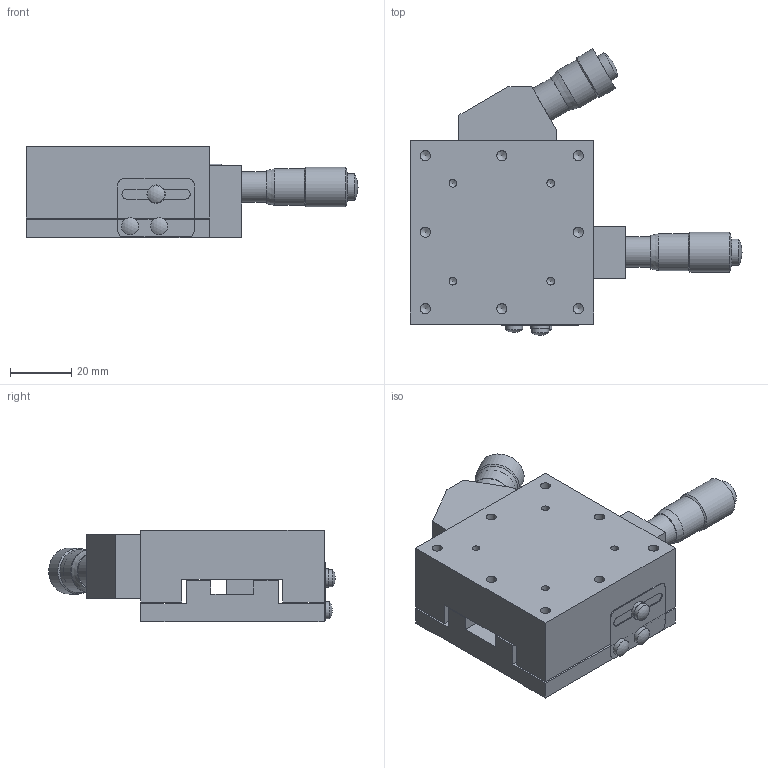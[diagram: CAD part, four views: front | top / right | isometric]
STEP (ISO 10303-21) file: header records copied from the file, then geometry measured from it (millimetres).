
FILE_DESCRIPTION( ( 'STEP AP214' ), '1' );
FILE_NAME( 'C:/Project/3D_B10-60RN-配布-070508.stp', '2007-05-08T10:41:49', ( ' ' ), ( ' ' ), 'XStep 1.0', ' ', ' ' );
FILE_SCHEMA( ( 'automotive_design' ) );
Length unit declared in the file: millimetre
Products named in the file (4): 1; 2; 3; 4
Bounding box: 108.5 x 93.68 x 30 mm (x, y, z)
Volume: 117844.7 mm3; surface area: 35447.7 mm2
Topology: 4 solids, 4 shells, 158 faces, 364 edges, 233 vertices
Faces by surface type: plane 72, cylinder 60, cone 19, sphere 6, bspline 1
Full cylindrical faces by diameter (mm): 2.5 x8, 3 x1, 3.3 x16, 4.5 x4, 5 x3, 5.6 x3, 6 x1, 6.35 x1, 6.5 x2, 8 x4, 8.6 x1, 9 x1, 9.5 x1, 10 x1, 10.5 x1, 12 x2, 13 x1, 13.6 x1, 14 x1, 15 x1
Entity records: 5314 total; most frequent: DIRECTION 704, CARTESIAN_POINT 683, ORIENTED_EDGE 540, AXIS2_PLACEMENT_3D 273, EDGE_CURVE 270, EDGE_LOOP 261, VERTEX_POINT 224, FACE_OUTER_BOUND 212
